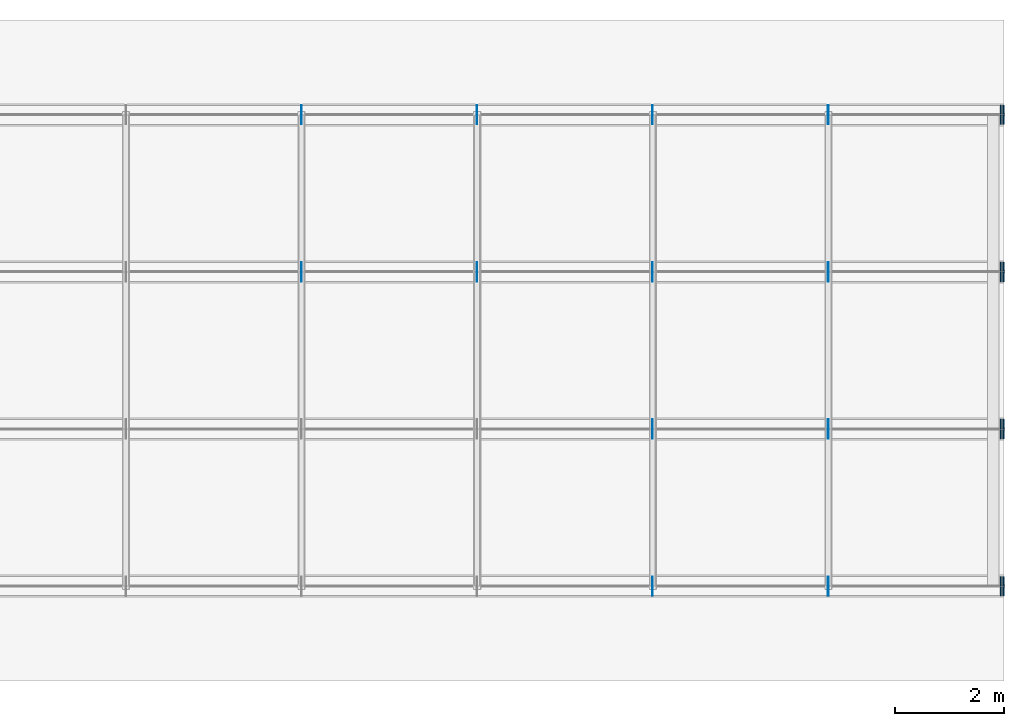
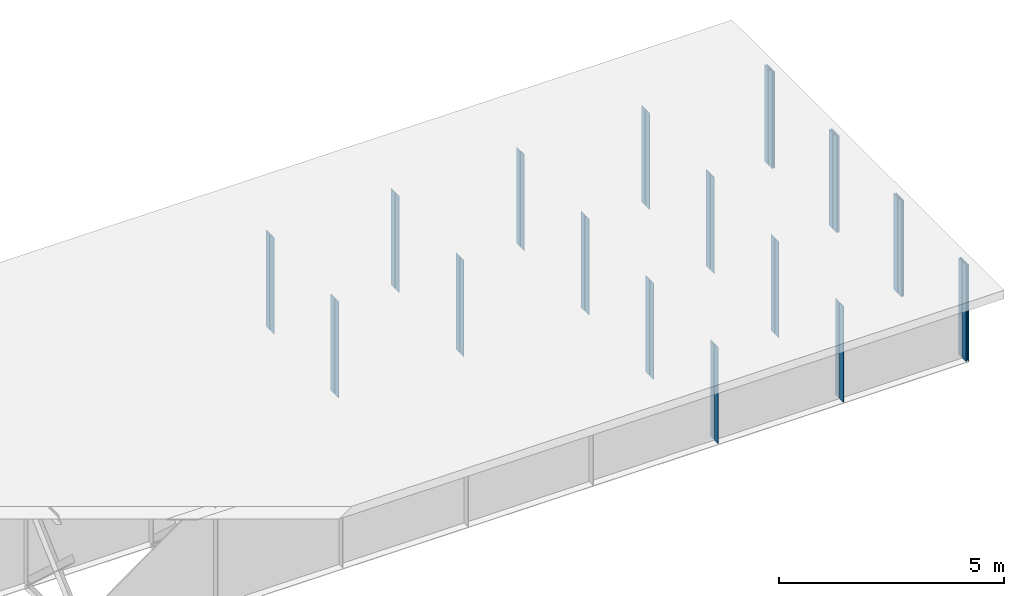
# One storey, part 13 of 13: 40 plates.
"""IFC4 building model written with IfcOpenShell, lengths in metres."""

from ifc_helpers import new_model, si_unit, frame, origin, origin_with_axes, origin_2d_with_axis, place, context, subcontext, project, spatial, rectangle, extrude, element, save


model = new_model("IFC4")

# Units and contexts
model_context = context("Model", 3, precision=1e-05, world=origin())
body_context = subcontext(model_context, "Body", "Model", "MODEL_VIEW")
ifc_project = project(units=[si_unit("LENGTHUNIT", "METRE"), si_unit("AREAUNIT", "SQUARE_METRE"), si_unit("VOLUMEUNIT", "CUBIC_METRE"), si_unit("PLANEANGLEUNIT", "RADIAN")], contexts=[model_context])

# Site, building, storey
site_placement = place(None, origin_with_axes())
site = spatial("IfcSite", under=ifc_project, at=site_placement, Name="Default Site")
building_placement = place(site_placement, origin_with_axes())
building = spatial("IfcBuilding", under=site, at=building_placement, Name="Bridge Structure")
storey_placement = place(building_placement, origin_with_axes())
storey = spatial("IfcBuildingStorey", under=building, at=storey_placement, Name="Superstructure")

# Plates
for number, where, z_axis, x_axis, name in (
    (1, (38.568, -4.2205, -1.307), (0.0, 0.0, 1.0), (1.0, 0.0, 0.0), "Intermediate Stiffener 1"),
    (2, (38.568, -4.4045000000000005, -1.307), (0.0, 0.0, 1.0), (1.0, 0.0, 0.0), "Intermediate Stiffener 1"),
    (3, (41.782000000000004, -4.2205, -1.307), (0.0, 0.0, 1.0), (1.0, 0.0, 0.0), "Intermediate Stiffener 1"),
    (4, (41.782000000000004, -4.4045000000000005, -1.307), (0.0, 0.0, 1.0), (1.0, 0.0, 0.0), "Intermediate Stiffener 1"),
):
    element("IfcPlate", number, at=place(storey_placement, frame(where, z_axis=z_axis, x_axis=x_axis)), inside=storey, Name=name, context=body_context, shape_type="SweptSolid", body=[
        extrude(rectangle(XDim=0.012, YDim=0.166, at=origin_2d_with_axis()), origin_with_axes(), (0.0, 0.0, 1.0), 2.614),
    ])
for number, where, z_axis, x_axis, name in (
    (5, (44.99, -4.2205, -1.307), (0.0, 0.0, 1.0), (1.0, 0.0, 0.0), "End Stiffener 1"),
    (6, (44.99, -4.4045000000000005, -1.307), (0.0, 0.0, 1.0), (1.0, 0.0, 0.0), "End Stiffener 1"),
    (7, (44.94, -4.2205, -1.307), (0.0, 0.0, 1.0), (1.0, 0.0, 0.0), "End Stiffener 1"),
    (8, (44.94, -4.4045000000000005, -1.307), (0.0, 0.0, 1.0), (1.0, 0.0, 0.0), "End Stiffener 1"),
):
    element("IfcPlate", number, at=place(storey_placement, frame(where, z_axis=z_axis, x_axis=x_axis)), inside=storey, Name=name, context=body_context, shape_type="SweptSolid", body=[
        extrude(rectangle(XDim=0.02, YDim=0.166, at=origin_2d_with_axis()), origin_with_axes(), (0.0, 0.0, 1.0), 2.614),
    ])
for number, where, z_axis, x_axis, name in (
    (9, (38.568, -1.3455, -1.307), (0.0, 0.0, 1.0), (1.0, 0.0, 0.0), "Intermediate Stiffener 2"),
    (10, (38.568, -1.5295, -1.307), (0.0, 0.0, 1.0), (1.0, 0.0, 0.0), "Intermediate Stiffener 2"),
    (11, (41.782000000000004, -1.3455, -1.307), (0.0, 0.0, 1.0), (1.0, 0.0, 0.0), "Intermediate Stiffener 2"),
    (12, (41.782000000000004, -1.5295, -1.307), (0.0, 0.0, 1.0), (1.0, 0.0, 0.0), "Intermediate Stiffener 2"),
):
    element("IfcPlate", number, at=place(storey_placement, frame(where, z_axis=z_axis, x_axis=x_axis)), inside=storey, Name=name, context=body_context, shape_type="SweptSolid", body=[
        extrude(rectangle(XDim=0.012, YDim=0.166, at=origin_2d_with_axis()), origin_with_axes(), (0.0, 0.0, 1.0), 2.614),
    ])
for number, where, z_axis, x_axis, name in (
    (13, (44.99, -1.3455, -1.307), (0.0, 0.0, 1.0), (1.0, 0.0, 0.0), "End Stiffener 2"),
    (14, (44.99, -1.5295, -1.307), (0.0, 0.0, 1.0), (1.0, 0.0, 0.0), "End Stiffener 2"),
    (15, (44.94, -1.3455, -1.307), (0.0, 0.0, 1.0), (1.0, 0.0, 0.0), "End Stiffener 2"),
    (16, (44.94, -1.5295, -1.307), (0.0, 0.0, 1.0), (1.0, 0.0, 0.0), "End Stiffener 2"),
):
    element("IfcPlate", number, at=place(storey_placement, frame(where, z_axis=z_axis, x_axis=x_axis)), inside=storey, Name=name, context=body_context, shape_type="SweptSolid", body=[
        extrude(rectangle(XDim=0.02, YDim=0.166, at=origin_2d_with_axis()), origin_with_axes(), (0.0, 0.0, 1.0), 2.614),
    ])
for number, where, z_axis, x_axis, name in (
    (17, (32.14, 1.5295, -1.307), (0.0, 0.0, 1.0), (1.0, 0.0, 0.0), "Intermediate Stiffener 3"),
    (18, (32.14, 1.3455, -1.307), (0.0, 0.0, 1.0), (1.0, 0.0, 0.0), "Intermediate Stiffener 3"),
    (19, (35.354, 1.5295, -1.307), (0.0, 0.0, 1.0), (1.0, 0.0, 0.0), "Intermediate Stiffener 3"),
    (20, (35.354, 1.3455, -1.307), (0.0, 0.0, 1.0), (1.0, 0.0, 0.0), "Intermediate Stiffener 3"),
    (21, (38.568, 1.5295, -1.307), (0.0, 0.0, 1.0), (1.0, 0.0, 0.0), "Intermediate Stiffener 3"),
    (22, (38.568, 1.3455, -1.307), (0.0, 0.0, 1.0), (1.0, 0.0, 0.0), "Intermediate Stiffener 3"),
    (23, (41.782000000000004, 1.5295, -1.307), (0.0, 0.0, 1.0), (1.0, 0.0, 0.0), "Intermediate Stiffener 3"),
    (24, (41.782000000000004, 1.3455, -1.307), (0.0, 0.0, 1.0), (1.0, 0.0, 0.0), "Intermediate Stiffener 3"),
):
    element("IfcPlate", number, at=place(storey_placement, frame(where, z_axis=z_axis, x_axis=x_axis)), inside=storey, Name=name, context=body_context, shape_type="SweptSolid", body=[
        extrude(rectangle(XDim=0.012, YDim=0.166, at=origin_2d_with_axis()), origin_with_axes(), (0.0, 0.0, 1.0), 2.614),
    ])
for number, where, z_axis, x_axis, name in (
    (25, (44.99, 1.5295, -1.307), (0.0, 0.0, 1.0), (1.0, 0.0, 0.0), "End Stiffener 3"),
    (26, (44.99, 1.3455, -1.307), (0.0, 0.0, 1.0), (1.0, 0.0, 0.0), "End Stiffener 3"),
    (27, (44.94, 1.5295, -1.307), (0.0, 0.0, 1.0), (1.0, 0.0, 0.0), "End Stiffener 3"),
    (28, (44.94, 1.3455, -1.307), (0.0, 0.0, 1.0), (1.0, 0.0, 0.0), "End Stiffener 3"),
):
    element("IfcPlate", number, at=place(storey_placement, frame(where, z_axis=z_axis, x_axis=x_axis)), inside=storey, Name=name, context=body_context, shape_type="SweptSolid", body=[
        extrude(rectangle(XDim=0.02, YDim=0.166, at=origin_2d_with_axis()), origin_with_axes(), (0.0, 0.0, 1.0), 2.614),
    ])
for number, where, z_axis, x_axis, name in (
    (29, (32.14, 4.4045000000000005, -1.307), (0.0, 0.0, 1.0), (1.0, 0.0, 0.0), "Intermediate Stiffener 4"),
    (30, (32.14, 4.2205, -1.307), (0.0, 0.0, 1.0), (1.0, 0.0, 0.0), "Intermediate Stiffener 4"),
    (31, (35.354, 4.4045000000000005, -1.307), (0.0, 0.0, 1.0), (1.0, 0.0, 0.0), "Intermediate Stiffener 4"),
    (32, (35.354, 4.2205, -1.307), (0.0, 0.0, 1.0), (1.0, 0.0, 0.0), "Intermediate Stiffener 4"),
    (33, (38.568, 4.4045000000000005, -1.307), (0.0, 0.0, 1.0), (1.0, 0.0, 0.0), "Intermediate Stiffener 4"),
    (34, (38.568, 4.2205, -1.307), (0.0, 0.0, 1.0), (1.0, 0.0, 0.0), "Intermediate Stiffener 4"),
    (35, (41.782000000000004, 4.4045000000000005, -1.307), (0.0, 0.0, 1.0), (1.0, 0.0, 0.0), "Intermediate Stiffener 4"),
    (36, (41.782000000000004, 4.2205, -1.307), (0.0, 0.0, 1.0), (1.0, 0.0, 0.0), "Intermediate Stiffener 4"),
):
    element("IfcPlate", number, at=place(storey_placement, frame(where, z_axis=z_axis, x_axis=x_axis)), inside=storey, Name=name, context=body_context, shape_type="SweptSolid", body=[
        extrude(rectangle(XDim=0.012, YDim=0.166, at=origin_2d_with_axis()), origin_with_axes(), (0.0, 0.0, 1.0), 2.614),
    ])
for number, where, z_axis, x_axis, name in (
    (37, (44.99, 4.4045000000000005, -1.307), (0.0, 0.0, 1.0), (1.0, 0.0, 0.0), "End Stiffener 4"),
    (38, (44.99, 4.2205, -1.307), (0.0, 0.0, 1.0), (1.0, 0.0, 0.0), "End Stiffener 4"),
    (39, (44.94, 4.4045000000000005, -1.307), (0.0, 0.0, 1.0), (1.0, 0.0, 0.0), "End Stiffener 4"),
    (40, (44.94, 4.2205, -1.307), (0.0, 0.0, 1.0), (1.0, 0.0, 0.0), "End Stiffener 4"),
):
    element("IfcPlate", number, at=place(storey_placement, frame(where, z_axis=z_axis, x_axis=x_axis)), inside=storey, Name=name, context=body_context, shape_type="SweptSolid", body=[
        extrude(rectangle(XDim=0.02, YDim=0.166, at=origin_2d_with_axis()), origin_with_axes(), (0.0, 0.0, 1.0), 2.614),
    ])

save(model, "model.ifc")
